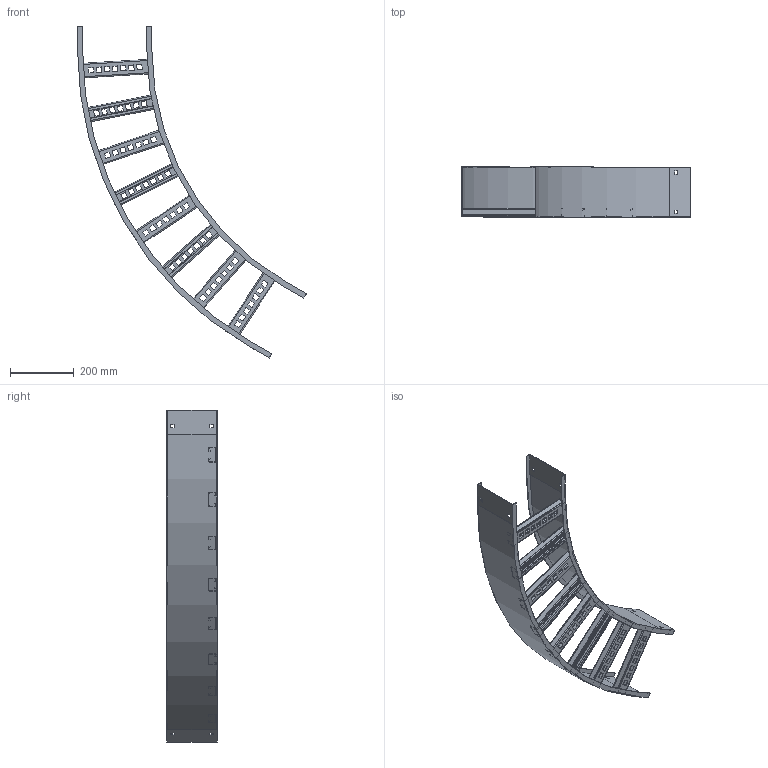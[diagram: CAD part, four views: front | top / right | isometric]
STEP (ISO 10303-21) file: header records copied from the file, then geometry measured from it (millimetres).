
FILE_DESCRIPTION((''),'2;1');
FILE_NAME('AUF609VHB6036_ASM','2010-01-28T',('erouzier'),(''),'PRO/ENGINEER BY PARAMETRIC TECHNOLOGY CORPORATION, 2008510','PRO/ENGINEER BY PARAMETRIC TECHNOLOGY CORPORATION, 2008510','');
FILE_SCHEMA(('CONFIG_CONTROL_DESIGN'));
Length unit declared in the file: inch
Products named in the file (4): CDS001321-6-60-33-I; CDS001321-6-60-42-O; CDS002159L9-P; AUF609VHB6036_ASM
Assembly tree (10 placements, depth 2):
  AUF609VHB6036_ASM
    CDS001321-6-60-33-I
    CDS001321-6-60-42-O
    CDS002159L9-P  x8
Bounding box: 718.52 x 157.23 x 1042.25 mm (x, y, z)
Volume: 1260283.7 mm3; surface area: 1270422.3 mm2
Topology: 10 solids, 10 shells, 756 faces, 2208 edges, 1472 vertices
Faces by surface type: plane 436, cylinder 320
Entity records: 5274 total; most frequent: CARTESIAN_POINT 908, ORIENTED_EDGE 888, DIRECTION 874, EDGE_CURVE 444, VECTOR 350, LINE 350, VERTEX_POINT 296, AXIS2_PLACEMENT_3D 262
